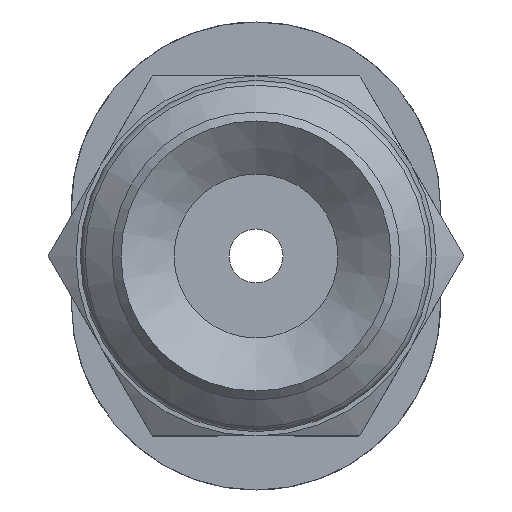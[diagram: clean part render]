
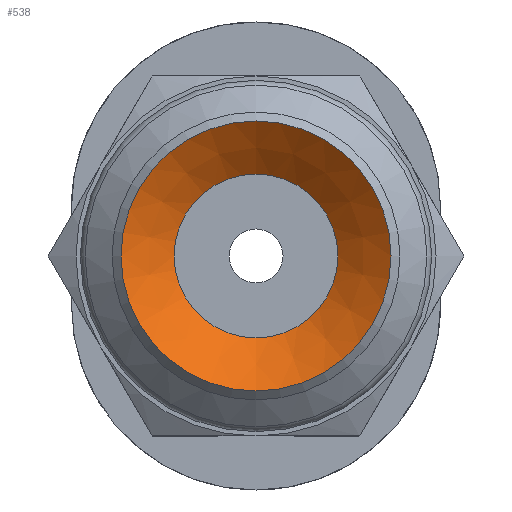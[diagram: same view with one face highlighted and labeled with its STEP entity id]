
A CAD part, front view. The second image highlights one B-rep face of the part: STEP entity #538.
In plain terms, the highlighted conical face has half-angle 52 degrees and reference radius 1.82 mm.
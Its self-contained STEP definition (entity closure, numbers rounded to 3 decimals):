
#538=ADVANCED_FACE('',(#803,#804),#805,.F.);
#803=FACE_BOUND('',#1167,.T.);
#804=FACE_OUTER_BOUND('',#1168,.T.);
#805=CONICAL_SURFACE('',#1169,1.82,0.908);
#1167=EDGE_LOOP('',(#2084));
#1168=EDGE_LOOP('',(#2085));
#1169=AXIS2_PLACEMENT_3D('',#2086,#2087,#2088);
#2084=ORIENTED_EDGE('',*,*,#2610,.F.);
#2085=ORIENTED_EDGE('',*,*,#2611,.T.);
#2086=CARTESIAN_POINT('',(0.0,6.889,0.0));
#2087=DIRECTION('',(-0.0,-1.0,0.));
#2088=DIRECTION('',(0.0,0.,-1.0));
#2610=EDGE_CURVE('',#2958,#2958,#2959,.T.);
#2611=EDGE_CURVE('',#2960,#2960,#2961,.T.);
#2958=VERTEX_POINT('',#3674);
#2959=CIRCLE('',#3675,1.82);
#2960=VERTEX_POINT('',#3676);
#2961=CIRCLE('',#3677,3.0);
#3674=CARTESIAN_POINT('',(0.0,6.889,-1.82));
#3675=AXIS2_PLACEMENT_3D('',#4342,#4343,#4344);
#3676=CARTESIAN_POINT('',(0.0,5.967,-3.0));
#3677=AXIS2_PLACEMENT_3D('',#4345,#4346,#4347);
#4342=CARTESIAN_POINT('',(0.0,6.889,0.0));
#4343=DIRECTION('',(0.0,-1.0,0.));
#4344=DIRECTION('',(0.0,0.,-1.0));
#4345=CARTESIAN_POINT('',(0.0,5.967,0.0));
#4346=DIRECTION('',(0.0,-1.0,0.));
#4347=DIRECTION('',(0.0,0.,-1.0));
